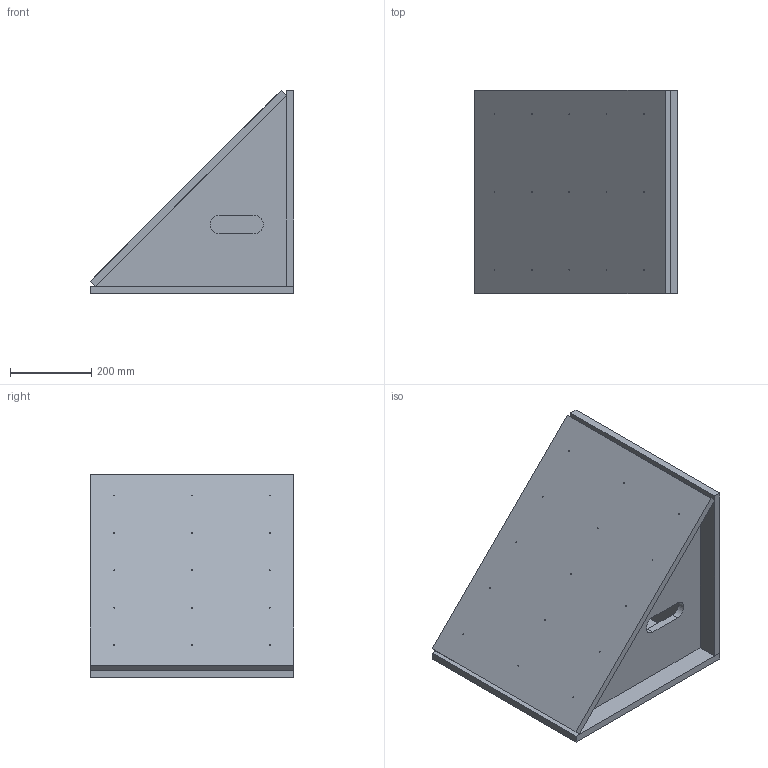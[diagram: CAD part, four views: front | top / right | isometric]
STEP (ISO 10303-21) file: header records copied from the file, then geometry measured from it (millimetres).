
FILE_DESCRIPTION(('Open CASCADE Model'),'2;1');
FILE_NAME('Open CASCADE Shape Model','2026-09-24T15:34:07',('Author'),( 'Open CASCADE'),'Open CASCADE STEP processor 7.9','Open CASCADE 7.9' ,'Unknown');
FILE_SCHEMA(('AUTOMOTIVE_DESIGN { 1 0 10303 214 1 1 1 1 }'));
Length unit declared in the file: millimetre
Products named in the file (7): triangle_500; P01; P02; P03; P04; P05; R01
Assembly tree (6 placements, depth 2):
  triangle_500
    P01
    P02
    P03
    P04
    P05
    R01
Bounding box: 500 x 500 x 500 mm (x, y, z)
Volume: 20556097.2 mm3; surface area: 2555941.1 mm2
Topology: 6 solids, 6 shells, 152 faces, 420 edges, 280 vertices
Faces by surface type: plane 133, cylinder 19
Full cylindrical faces by diameter (mm): 2.5 x15
Entity records: 10373 total; most frequent: CARTESIAN_POINT 2049, DIRECTION 1381, LINE 972, VECTOR 972, ORIENTED_EDGE 840, PCURVE 840, DEFINITIONAL_REPRESENTATION 840, EDGE_CURVE 420
